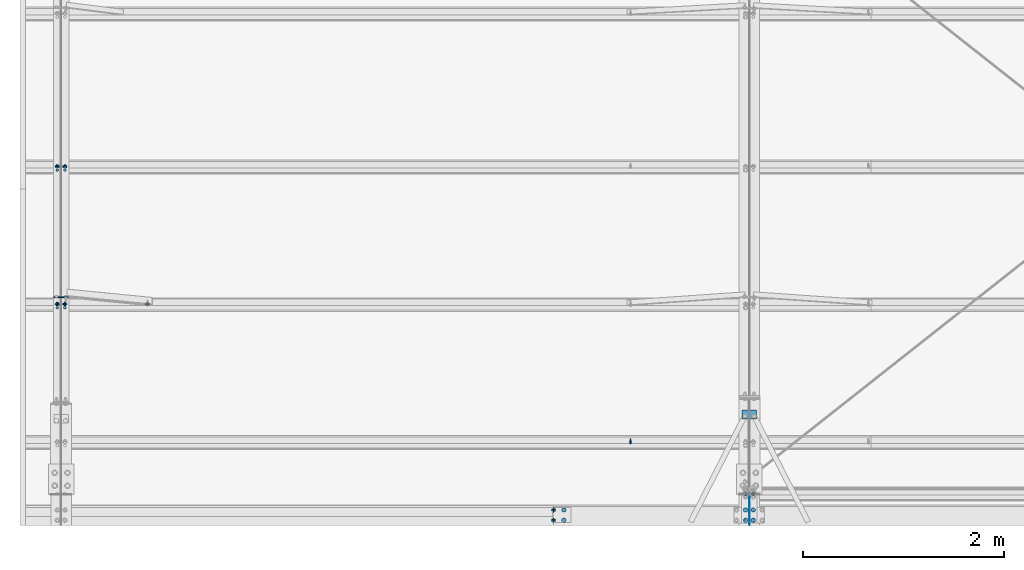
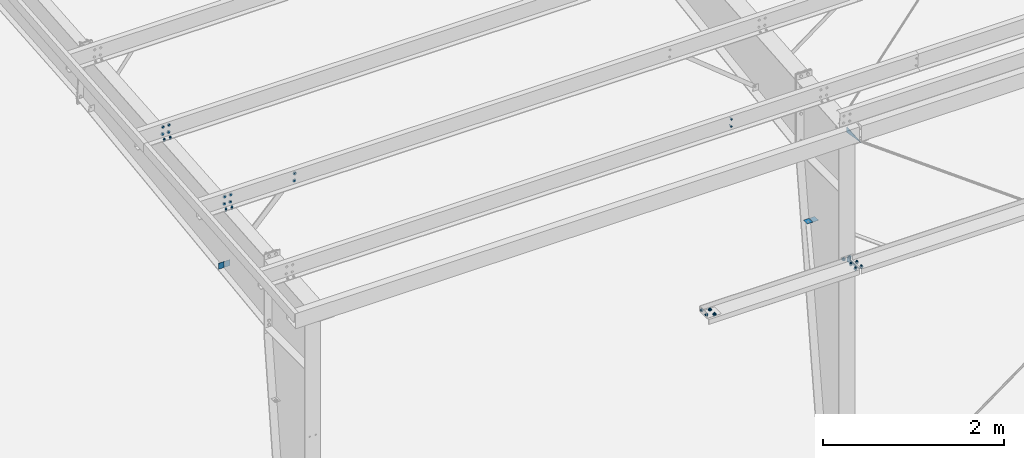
# One storey, part 62 of 185: 13 mechanical fasteners, 6 discrete accessories, 7 elements without a shape of their own.
"""IFC2X3 building model written with IfcOpenShell, lengths in millimetres."""

from ifc_helpers import new_model, si_unit, frame, frame_2d, origin_with_axes, origin_2d_with_axis, place, context, subcontext, project, spatial, polyline, circle_curve, parameter, trimmed, segment, composite_curve, rectangle, circle, outline, extrude, source, transform, mapped, material, type_object, element, aggregate, save


model = new_model("IFC2X3")

# Units and contexts
model_context = context("Model", 3, precision=1e-05, world=origin_with_axes())
body_context = subcontext(model_context, "Body", "Model", "MODEL_VIEW")
ifc_project = project(units=[si_unit("LENGTHUNIT", "METRE", prefix="MILLI"), si_unit("AREAUNIT", "SQUARE_METRE"), si_unit("VOLUMEUNIT", "CUBIC_METRE"), si_unit("MASSUNIT", "GRAM", prefix="KILO"), si_unit("TIMEUNIT", "SECOND"), si_unit("PLANEANGLEUNIT", "RADIAN"), si_unit("SOLIDANGLEUNIT", "STERADIAN"), si_unit("THERMODYNAMICTEMPERATUREUNIT", "DEGREE_CELSIUS"), si_unit("LUMINOUSINTENSITYUNIT", "LUMEN")], contexts=[model_context])

# Site, building, storey
site_placement = place(None, origin_with_axes())
site = spatial("IfcSite", under=ifc_project, at=site_placement, Name="Undefined", CompositionType="ELEMENT")
building_placement = place(site_placement, origin_with_axes())
building = spatial("IfcBuilding", under=site, at=building_placement, Name="Undefined", CompositionType="ELEMENT")
storey_placement = place(building_placement, origin_with_axes())
storey = spatial("IfcBuildingStorey", under=building, at=storey_placement, Name="Undefined", CompositionType="ELEMENT", Elevation=0.0)

# Assembly, mechanical fastener
assembly_1_placement = place(storey_placement, origin_with_axes())
assembly_1 = element("IfcElementAssembly", 1, at=assembly_1_placement, inside=storey, Name="Steel Assembly", AssemblyPlace="NOTDEFINED", PredefinedType="RIGID_FRAME")
ifc_material_1 = material(Name="Undefined")
discrete_accessory_type_1 = type_object("IfcDiscreteAccessoryType", Name="Bolt assembly")
shared_shape_1 = source(origin_with_axes(), body_context, "Body", "SweptSolid", [
    extrude(circle(Radius=7.14374971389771, at=origin_2d_with_axis()), frame((0.0, -1.59000001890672, 0.0), z_axis=(0.0, 1.0, 0.0), x_axis=(1.0, 0.0, 0.0)), (0.0, 0.0, 1.0), 3.3),
    extrude(circle(Radius=13.4937496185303, at=origin_2d_with_axis()), frame((0.0, -5.5587500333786, 0.0), z_axis=(0.0, 1.0, 0.0), x_axis=(1.0, 0.0, 0.0)), (0.0, 0.0, 1.0), 4.0),
    extrude(circle(Radius=22.2250003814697, at=origin_2d_with_axis()), frame((0.0, 1.5900000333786, 0.0), z_axis=(0.0, 1.0, 0.0), x_axis=(1.0, 0.0, 0.0)), (0.0, 0.0, 1.0), 7.9),
    extrude(outline(polyline([(12.8316099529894, 0.0), (6.4158049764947, 11.1125001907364), (-6.4158049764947, 11.1125001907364), (-12.8316099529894, 0.0), (-6.4158049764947, -11.1125001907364), (6.4158049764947, -11.1125001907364), (12.8316099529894, 0.0)])), frame((0.0, 9.5275000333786, 0.0), z_axis=(0.0, 1.0, 0.0), x_axis=(1.0, 0.0, 0.0)), (0.0, 0.0, 1.0), 12.3),
])
mechanical_fastener_1_placement = place(assembly_1_placement, frame((1263.65, 2185.72394128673, 6227.16757842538), z_axis=(1.0, 0.0, 0.0), x_axis=(0.0, 0.0830454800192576, -0.996545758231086)))
mechanical_fastener_1 = element("IfcMechanicalFastener", 2, at=mechanical_fastener_1_placement, type_object=discrete_accessory_type_1, material=ifc_material_1, Name="Bolt assembly", NominalDiameter=12.6999998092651, NominalLength=38.0999984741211, context=body_context, shape_type="MappedRepresentation", body=[
    mapped(shared_shape_1, transform((0.0, 0.0, 0.0))),
    mapped(shared_shape_1, transform((101.599998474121, 0.0, 0.0))),
])

# Assembly, mechanical fasteners
assembly_2_placement = place(storey_placement, origin_with_axes())
assembly_2 = element("IfcElementAssembly", 3, at=assembly_2_placement, inside=storey, Name="Steel Assembly", AssemblyPlace="NOTDEFINED", PredefinedType="RIGID_FRAME")
mechanical_fastener_2_placement = place(assembly_2_placement, frame((368.300000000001, 3552.58610327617, 6341.0727588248), z_axis=(1.0, 0.0, 0.0), x_axis=(0.0, 0.0830454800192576, -0.996545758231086)))
mechanical_fastener_2 = element("IfcMechanicalFastener", 4, at=mechanical_fastener_2_placement, type_object=discrete_accessory_type_1, material=ifc_material_1, Name="Bolt assembly", NominalDiameter=12.6999998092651, NominalLength=38.0999984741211, context=body_context, shape_type="MappedRepresentation", body=[
    mapped(shared_shape_1, transform((0.0, 0.0, 0.0))),
    mapped(shared_shape_1, transform((101.599998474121, 0.0, 0.0))),
])
mechanical_fastener_3_placement = place(assembly_2_placement, frame((444.500000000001, 3552.58610327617, 6341.0727588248), z_axis=(1.0, 0.0, 0.0), x_axis=(0.0, 0.0830454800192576, -0.996545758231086)))
mechanical_fastener_3 = element("IfcMechanicalFastener", 5, at=mechanical_fastener_3_placement, type_object=discrete_accessory_type_1, material=ifc_material_1, Name="Bolt assembly", NominalDiameter=12.6999998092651, NominalLength=38.0999984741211, context=body_context, shape_type="MappedRepresentation", body=[
    mapped(shared_shape_1, transform((0.0, 0.0, 0.0))),
    mapped(shared_shape_1, transform((101.599998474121, 0.0, 0.0))),
])

# Mechanical fastener
mechanical_fastener_4_placement = place(assembly_1_placement, frame((368.300000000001, 2185.72394128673, 6227.16757842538), z_axis=(1.0, 0.0, 0.0), x_axis=(0.0, 0.0830454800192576, -0.996545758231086)))
mechanical_fastener_4 = element("IfcMechanicalFastener", 6, at=mechanical_fastener_4_placement, type_object=discrete_accessory_type_1, material=ifc_material_1, Name="Bolt assembly", NominalDiameter=12.6999998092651, NominalLength=38.0999984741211, context=body_context, shape_type="MappedRepresentation", body=[
    mapped(shared_shape_1, transform((0.0, 0.0, 0.0))),
    mapped(shared_shape_1, transform((101.599998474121, 0.0, 0.0))),
])

mechanical_fastener_5_placement = place(assembly_1_placement, frame((444.500000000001, 2185.72394128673, 6227.16757842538), z_axis=(1.0, 0.0, 0.0), x_axis=(0.0, 0.0830454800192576, -0.996545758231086)))
mechanical_fastener_5 = element("IfcMechanicalFastener", 7, at=mechanical_fastener_5_placement, type_object=discrete_accessory_type_1, material=ifc_material_1, Name="Bolt assembly", NominalDiameter=12.6999998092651, NominalLength=38.0999984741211, context=body_context, shape_type="MappedRepresentation", body=[
    mapped(shared_shape_1, transform((0.0, 0.0, 0.0))),
    mapped(shared_shape_1, transform((101.599998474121, 0.0, 0.0))),
])

# Assembly, mechanical fasteners
assembly_3_placement = place(storey_placement, origin_with_axes())
assembly_3 = element("IfcElementAssembly", 8, at=assembly_3_placement, inside=storey, Name="Steel Assembly", AssemblyPlace="NOTDEFINED", PredefinedType="RIGID_FRAME")
shared_shape_2 = source(origin_with_axes(), body_context, "Body", "SweptSolid", [
    extrude(circle(Radius=7.14374971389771, at=origin_2d_with_axis()), frame((0.0, 0.0, 0.0), z_axis=(0.0, 1.0, 0.0), x_axis=(1.0, 0.0, 0.0)), (0.0, 0.0, 1.0), 3.3),
    extrude(outline(polyline([(10.9985221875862, 0.0), (5.4992610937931, 9.52499961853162), (-5.4992610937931, 9.52499961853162), (-10.9985221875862, 0.0), (-5.4992610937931, -9.52499961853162), (5.4992610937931, -9.52499961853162), (10.9985221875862, 0.0)])), frame((0.0, -7.93749389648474, 0.0), z_axis=(0.0, 1.0, 0.0), x_axis=(1.0, 0.0, 0.0)), (0.0, 0.0, 1.0), 7.9),
    extrude(circle(Radius=6.34999990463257, at=origin_2d_with_axis()), frame((0.0, 0.0, 0.0), z_axis=(0.0, 1.0, 0.0), x_axis=(1.0, 0.0, 0.0)), (0.0, 0.0, 1.0), 25.4),
    extrude(circle(Radius=22.2250003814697, at=origin_2d_with_axis()), frame((0.0, 3.17500610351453, 0.0), z_axis=(0.0, 1.0, 0.0), x_axis=(1.0, 0.0, 0.0)), (0.0, 0.0, 1.0), 7.9),
    extrude(outline(polyline([(12.8316099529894, 0.0), (6.4158049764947, 11.1125001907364), (-6.4158049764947, 11.1125001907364), (-12.8316099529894, 0.0), (-6.4158049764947, -11.1125001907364), (6.4158049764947, -11.1125001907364), (12.8316099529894, 0.0)])), frame((0.0, 11.1125061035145, 0.0), z_axis=(0.0, 1.0, 0.0), x_axis=(1.0, 0.0, 0.0)), (0.0, 0.0, 1.0), 12.3),
])
mechanical_fastener_6_placement = place(assembly_3_placement, frame((5286.38000030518, 101.6, 4203.69999835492), z_axis=(0.0, 1.0, 0.0), x_axis=(0.0, 0.0, 1.0)))
mechanical_fastener_6 = element("IfcMechanicalFastener", 9, at=mechanical_fastener_6_placement, type_object=discrete_accessory_type_1, material=ifc_material_1, Name="Bolt assembly", NominalDiameter=12.6999998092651, NominalLength=25.3999996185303, context=body_context, shape_type="MappedRepresentation", body=[
    mapped(shared_shape_2, transform((0.0, 0.0, -50.7999992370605))),
    mapped(shared_shape_2, transform((0.0, 0.0, 50.7999992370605))),
])
shared_shape_3 = source(origin_with_axes(), body_context, "Body", "SweptSolid", [
    extrude(circle(Radius=7.14374971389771, at=origin_2d_with_axis()), frame((0.0, -3.08000006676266, 0.0), z_axis=(0.0, 1.0, 0.0), x_axis=(1.0, 0.0, 0.0)), (0.0, 0.0, 1.0), 3.2),
    extrude(circle(Radius=7.14374971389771, at=origin_2d_with_axis()), frame((0.0, -0.1, 0.0), z_axis=(0.0, 1.0, 0.0), x_axis=(1.0, 0.0, 0.0)), (0.0, 0.0, 1.0), 3.3),
    extrude(outline(polyline([(10.9985221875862, 0.0), (5.4992610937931, 9.52499961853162), (-5.4992610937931, 9.52499961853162), (-10.9985221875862, 0.0), (-5.4992610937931, -9.52499961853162), (5.4992610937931, -9.52499961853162), (10.9985221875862, 0.0)])), frame((0.0, -16.6737496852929, 0.0), z_axis=(0.0, 1.0, 0.0), x_axis=(1.0, 0.0, 0.0)), (0.0, 0.0, 1.0), 9.5),
    extrude(circle(Radius=6.34999990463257, at=origin_2d_with_axis()), frame((0.0, -7.14875006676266, 0.0), z_axis=(0.0, 1.0, 0.0), x_axis=(1.0, 0.0, 0.0)), (0.0, 0.0, 1.0), 38.1),
    extrude(circle(Radius=13.4937496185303, at=origin_2d_with_axis()), frame((0.0, -7.14875006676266, 0.0), z_axis=(0.0, 1.0, 0.0), x_axis=(1.0, 0.0, 0.0)), (0.0, 0.0, 1.0), 4.0),
    extrude(circle(Radius=22.2250003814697, at=origin_2d_with_axis()), frame((0.0, 3.17500610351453, 0.0), z_axis=(0.0, 1.0, 0.0), x_axis=(1.0, 0.0, 0.0)), (0.0, 0.0, 1.0), 7.9),
    extrude(outline(polyline([(12.8316099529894, 0.0), (6.4158049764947, 11.1125001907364), (-6.4158049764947, 11.1125001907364), (-12.8316099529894, 0.0), (-6.4158049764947, -11.1125001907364), (6.4158049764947, -11.1125001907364), (12.8316099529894, 0.0)])), frame((0.0, 11.1125061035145, 0.0), z_axis=(0.0, 1.0, 0.0), x_axis=(1.0, 0.0, 0.0)), (0.0, 0.0, 1.0), 12.3),
])
mechanical_fastener_7_placement = place(assembly_3_placement, frame((5397.5, 101.6, 4167.19000003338), z_axis=(0.0, -1.0, 0.0), x_axis=(1.0, 0.0, 0.0)))
mechanical_fastener_7 = element("IfcMechanicalFastener", 10, at=mechanical_fastener_7_placement, type_object=discrete_accessory_type_1, material=ifc_material_1, Name="Bolt assembly", NominalDiameter=12.6999998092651, NominalLength=38.0999984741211, context=body_context, shape_type="MappedRepresentation", body=[
    mapped(shared_shape_3, transform((0.0, 0.0, -50.7999992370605))),
    mapped(shared_shape_3, transform((0.0, 0.0, 50.7999992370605))),
])
aggregate(assembly_3, [mechanical_fastener_6, mechanical_fastener_7])

# Assembly, discrete accessories
assembly_4_placement = place(storey_placement, origin_with_axes())
assembly_4 = element("IfcElementAssembly", 11, at=assembly_4_placement, inside=storey, Name="Steel Assembly", AssemblyPlace="NOTDEFINED", PredefinedType="RIGID_FRAME")
ifc_material_2 = material(Name="STEEL/55")
discrete_accessory_type_2 = type_object("IfcDiscreteAccessoryType", Name="FLANGE BRACE FLIP")
discrete_accessory_1_placement = place(assembly_4_placement, frame((7236.61875, 1100.12169218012, 4163.4569751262), z_axis=(0.0, -1.0, 0.0), x_axis=(-1.0, 0.0, 0.0)))
discrete_accessory_1 = element("IfcDiscreteAccessory", 12, at=discrete_accessory_1_placement, type_object=discrete_accessory_type_2, material=ifc_material_2, Name="FLANGE BRACE FLIP", ObjectType="PL1/8\"X2 3/4\"", context=body_context, shape_type="SweptSolid", body=[
    extrude(rectangle(XDim=3.416, YDim=85.725, at=origin_2d_with_axis()), frame((69.8499999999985, 0.0, 0.0), z_axis=(-1.0, 0.0, 0.0), x_axis=(0.0, -1.0, 0.0)), (0.0, 0.0, 1.0), 69.9),
])
discrete_accessory_2_placement = place(assembly_4_placement, frame((7241.38125, 1100.12169218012, 4163.4569751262), z_axis=(0.0, -1.0, 0.0), x_axis=(1.0, 0.0, 0.0)))
discrete_accessory_2 = element("IfcDiscreteAccessory", 13, at=discrete_accessory_2_placement, type_object=discrete_accessory_type_2, material=ifc_material_2, Name="FLANGE BRACE FLIP", ObjectType="PL1/8\"X2 3/4\"", context=body_context, shape_type="SweptSolid", body=[
    extrude(rectangle(XDim=3.416, YDim=85.725, at=origin_2d_with_axis()), frame((69.8499999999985, 0.0, 0.0), z_axis=(-1.0, 0.0, 0.0), x_axis=(0.0, -1.0, 0.0)), (0.0, 0.0, 1.0), 69.9),
])

assembly_5_placement = place(storey_placement, origin_with_axes())
assembly_5 = element("IfcElementAssembly", 14, at=assembly_5_placement, inside=storey, Name="Steel Assembly", AssemblyPlace="NOTDEFINED", PredefinedType="RIGID_FRAME")
discrete_accessory_3_placement = place(assembly_5_placement, frame((408.781250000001, 2265.30818781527, 5251.58957642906), z_axis=(0.0, -0.0830454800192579, 0.996545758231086), x_axis=(1.0, 0.0, 0.0)))
discrete_accessory_3 = element("IfcDiscreteAccessory", 15, at=discrete_accessory_3_placement, type_object=discrete_accessory_type_2, material=ifc_material_2, Name="FLANGE BRACE FLIP", ObjectType="PL1/8\"X2 3/4\"", context=body_context, shape_type="SweptSolid", body=[
    extrude(rectangle(XDim=3.416, YDim=85.725, at=origin_2d_with_axis()), frame((69.8499999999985, 0.0, 0.0), z_axis=(-1.0, 0.0, 0.0), x_axis=(0.0, -1.0, 0.0)), (0.0, 0.0, 1.0), 69.9),
])
discrete_accessory_4_placement = place(assembly_5_placement, frame((404.018750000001, 2265.30818781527, 5251.58957642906), z_axis=(0.0, -0.0830454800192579, 0.996545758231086), x_axis=(-1.0, 0.0, 0.0)))
discrete_accessory_4 = element("IfcDiscreteAccessory", 16, at=discrete_accessory_4_placement, type_object=discrete_accessory_type_2, material=ifc_material_2, Name="FLANGE BRACE FLIP", ObjectType="PL1/8\"X2 3/4\"", context=body_context, shape_type="SweptSolid", body=[
    extrude(rectangle(XDim=3.416, YDim=85.725, at=origin_2d_with_axis()), frame((69.8499999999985, 0.0, 0.0), z_axis=(-1.0, 0.0, 0.0), x_axis=(0.0, -1.0, 0.0)), (0.0, 0.0, 1.0), 69.9),
])
aggregate(assembly_5, [discrete_accessory_3, discrete_accessory_4])

# Assembly, discrete accessory, mechanical fastener
assembly_6_placement = place(storey_placement, origin_with_axes())
assembly_6 = element("IfcElementAssembly", 17, at=assembly_6_placement, inside=storey, Name="Steel Assembly", AssemblyPlace="NOTDEFINED", PredefinedType="RIGID_FRAME")
discrete_accessory_type_3 = type_object("IfcDiscreteAccessoryType", Name="Gusett")
discrete_accessory_5_placement = place(assembly_6_placement, frame((7239.0, 298.449999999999, 4089.4), z_axis=(1.0, 0.0, 0.0), x_axis=(0.0, 0.0, 1.0)))
discrete_accessory_5 = element("IfcDiscreteAccessory", 18, at=discrete_accessory_5_placement, type_object=discrete_accessory_type_3, material=ifc_material_2, Name="Gusett", ObjectType="FL1/4\"X2 3/4\"", context=body_context, shape_type="SweptSolid", body=[
    extrude(outline(polyline([(0.0, 0.0), (69.8499984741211, 0.0), (69.8499984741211, 273.049987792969), (0.0, 0.0)])), frame((0.0, -9.09494701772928e-13, -3.2), z_axis=(0.0, 0.0, 1.0), x_axis=(1.0, 0.0, 0.0)), (0.0, 0.0, 1.0), 6.4),
])
shared_shape_4 = source(origin_with_axes(), body_context, "Body", "SweptSolid", [
    extrude(circle(Radius=7.14374971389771, at=origin_2d_with_axis()), frame((0.0, -0.1, 0.0), z_axis=(0.0, 1.0, 0.0), x_axis=(1.0, 0.0, 0.0)), (0.0, 0.0, 1.0), 8.0),
    extrude(circle(Radius=7.14374971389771, at=origin_2d_with_axis()), frame((0.0, -6.24999999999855, 0.0), z_axis=(0.0, 1.0, 0.0), x_axis=(1.0, 0.0, 0.0)), (0.0, 0.0, 1.0), 6.4),
    extrude(outline(polyline([(10.9985221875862, 0.0), (5.4992610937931, 9.52499961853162), (-5.4992610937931, 9.52499961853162), (-10.9985221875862, 0.0), (-5.4992610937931, -9.52499961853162), (5.4992610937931, -9.52499961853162), (10.9985221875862, 0.0)])), frame((0.0, -15.8750000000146, 0.0), z_axis=(0.0, 1.0, 0.0), x_axis=(1.0, 0.0, 0.0)), (0.0, 0.0, 1.0), 9.5),
    extrude(circle(Radius=6.34999990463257, at=origin_2d_with_axis()), frame((0.0, -6.34999953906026, 0.0), z_axis=(0.0, 1.0, 0.0), x_axis=(1.0, 0.0, 0.0)), (0.0, 0.0, 1.0), 38.1),
    extrude(circle(Radius=22.2250003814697, at=origin_2d_with_axis()), frame((0.0, 7.87399999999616, 0.0), z_axis=(0.0, 1.0, 0.0), x_axis=(1.0, 0.0, 0.0)), (0.0, 0.0, 1.0), 7.9),
    extrude(outline(polyline([(12.8316099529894, 0.0), (6.4158049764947, 11.1125001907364), (-6.4158049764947, 11.1125001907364), (-12.8316099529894, 0.0), (-6.4158049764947, -11.1125001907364), (6.4158049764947, -11.1125001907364), (12.8316099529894, 0.0)])), frame((0.0, 15.8114999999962, 0.0), z_axis=(0.0, 1.0, 0.0), x_axis=(1.0, 0.0, 0.0)), (0.0, 0.0, 1.0), 12.3),
])
mechanical_fastener_8_placement = place(assembly_6_placement, frame((7239.0, 304.8, 4127.5), z_axis=(1.0, 0.0, 0.0), x_axis=(0.0, 0.0, -1.0)))
mechanical_fastener_8 = element("IfcMechanicalFastener", 19, at=mechanical_fastener_8_placement, type_object=discrete_accessory_type_1, material=ifc_material_1, Name="Bolt assembly", NominalDiameter=12.6999998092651, NominalLength=38.0999984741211, context=body_context, shape_type="MappedRepresentation", body=[
    mapped(shared_shape_4, transform((0.0, 0.0, -38.0999984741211))),
    mapped(shared_shape_4, transform((0.0, 0.0, 38.0999984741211))),
])

# Assembly, mechanical fastener
assembly_7_placement = place(storey_placement, origin_with_axes())
assembly_7 = element("IfcElementAssembly", 20, at=assembly_7_placement, inside=storey, Name="Steel Assembly", AssemblyPlace="NOTDEFINED", PredefinedType="RIGID_FRAME")
shared_shape_5 = source(origin_with_axes(), body_context, "Body", "SweptSolid", [
    extrude(circle(Radius=7.14374971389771, at=origin_2d_with_axis()), frame((0.0, -1.4900000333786, 0.0), z_axis=(0.0, 1.0, 0.0), x_axis=(1.0, 0.0, 0.0)), (0.0, 0.0, 1.0), 3.2),
    extrude(circle(Radius=7.14374971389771, at=origin_2d_with_axis()), frame((0.0, -1.4900000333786, 0.0), z_axis=(0.0, 1.0, 0.0), x_axis=(1.0, 0.0, 0.0)), (0.0, 0.0, 1.0), 3.2),
    extrude(outline(polyline([(10.9985221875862, 0.0), (5.4992610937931, 9.52499961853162), (-5.4992610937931, 9.52499961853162), (-10.9985221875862, 0.0), (-5.4992610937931, -9.52499961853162), (5.4992610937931, -9.52499961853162), (10.9985221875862, 0.0)])), frame((0.0, -11.1149996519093, 0.0), z_axis=(0.0, 1.0, 0.0), x_axis=(1.0, 0.0, 0.0)), (0.0, 0.0, 1.0), 9.5),
    extrude(circle(Radius=6.34999990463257, at=origin_2d_with_axis()), frame((0.0, -1.59000001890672, 0.0), z_axis=(0.0, 1.0, 0.0), x_axis=(1.0, 0.0, 0.0)), (0.0, 0.0, 1.0), 38.1),
    extrude(outline(polyline([(12.8316099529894, 0.0), (6.4158049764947, 11.1125001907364), (-6.4158049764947, 11.1125001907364), (-12.8316099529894, 0.0), (-6.4158049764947, -11.1125001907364), (6.4158049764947, -11.1125001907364), (12.8316099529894, 0.0)])), frame((0.0, 1.5900000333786, 0.0), z_axis=(0.0, 1.0, 0.0), x_axis=(1.0, 0.0, 0.0)), (0.0, 0.0, 1.0), 12.3),
])
mechanical_fastener_9_placement = place(assembly_7_placement, frame((6057.9, 818.861779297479, 6113.26239802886), z_axis=(1.0, 0.0, 0.0), x_axis=(0.0, 0.0830454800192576, -0.996545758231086)))
mechanical_fastener_9 = element("IfcMechanicalFastener", 21, at=mechanical_fastener_9_placement, type_object=discrete_accessory_type_1, material=ifc_material_1, Name="Bolt assembly", NominalDiameter=12.6999998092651, NominalLength=38.0999984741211, context=body_context, shape_type="MappedRepresentation", body=[
    mapped(shared_shape_5, transform((0.0, 0.0, 0.0))),
    mapped(shared_shape_5, transform((101.599998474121, 0.0, 0.0))),
])
aggregate(assembly_7, [mechanical_fastener_9])

# Mechanical fastener
shared_shape_6 = source(origin_with_axes(), body_context, "Body", "SweptSolid", [
    extrude(outline(composite_curve([segment(polyline([(-5.953125, 7.14374971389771), (5.953125, 7.14374971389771)]), True, "CONTINUOUS"), segment(trimmed(circle_curve(frame_2d((5.953125, 0.0), x_axis=(0.0, 1.0)), 7.1), [parameter(0.0)], [parameter(3.14159265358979)], False, "PARAMETER"), True, "CONTINUOUS"), segment(polyline([(5.953125, -7.14374971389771), (-5.953125, -7.14374971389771)]), True, "CONTINUOUS"), segment(trimmed(circle_curve(frame_2d((-5.953125, 0.0), x_axis=(0.0, -1.0)), 7.1), [parameter(0.0)], [parameter(3.14159265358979)], False, "PARAMETER"), True, "DISCONTINUOUS")], self_intersect=False)), frame((0.0, -1.4900000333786, 0.0), z_axis=(0.0, 1.0, 0.0), x_axis=(1.0, 0.0, 0.0)), (0.0, 0.0, 1.0), 3.2),
    extrude(outline(composite_curve([segment(polyline([(7.14374971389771, 5.953125), (7.14374971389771, -5.953125)]), True, "CONTINUOUS"), segment(trimmed(circle_curve(frame_2d((0.0, -5.953125), x_axis=(1.0, 0.0)), 7.1), [parameter(0.0)], [parameter(3.14159265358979)], False, "PARAMETER"), True, "CONTINUOUS"), segment(polyline([(-7.14374971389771, -5.953125), (-7.14374971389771, 5.953125)]), True, "CONTINUOUS"), segment(trimmed(circle_curve(frame_2d((0.0, 5.953125), x_axis=(-1.0, 0.0)), 7.1), [parameter(0.0)], [parameter(3.14159265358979)], False, "PARAMETER"), True, "DISCONTINUOUS")], self_intersect=False)), frame((0.0, -0.1, 0.0), z_axis=(0.0, 1.0, 0.0), x_axis=(1.0, 0.0, 0.0)), (0.0, 0.0, 1.0), 6.5),
    extrude(outline(polyline([(10.9985221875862, 0.0), (5.4992610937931, 9.52499961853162), (-5.4992610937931, 9.52499961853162), (-10.9985221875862, 0.0), (-5.4992610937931, -9.52499961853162), (5.4992610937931, -9.52499961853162), (10.9985221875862, 0.0)])), frame((0.0, -15.0837496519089, 0.0), z_axis=(0.0, 1.0, 0.0), x_axis=(1.0, 0.0, 0.0)), (0.0, 0.0, 1.0), 9.5),
    extrude(circle(Radius=6.34999990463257, at=origin_2d_with_axis()), frame((0.0, -5.5587500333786, 0.0), z_axis=(0.0, 1.0, 0.0), x_axis=(1.0, 0.0, 0.0)), (0.0, 0.0, 1.0), 38.1),
    extrude(circle(Radius=13.4937496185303, at=origin_2d_with_axis()), frame((0.0, -5.5587500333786, 0.0), z_axis=(0.0, 1.0, 0.0), x_axis=(1.0, 0.0, 0.0)), (0.0, 0.0, 1.0), 4.0),
    extrude(circle(Radius=22.2250003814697, at=origin_2d_with_axis()), frame((0.0, 6.35000000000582, 0.0), z_axis=(0.0, 1.0, 0.0), x_axis=(1.0, 0.0, 0.0)), (0.0, 0.0, 1.0), 7.9),
    extrude(outline(polyline([(12.8316099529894, 0.0), (6.4158049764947, 11.1125001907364), (-6.4158049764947, 11.1125001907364), (-12.8316099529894, 0.0), (-6.4158049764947, -11.1125001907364), (6.4158049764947, -11.1125001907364), (12.8316099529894, 0.0)])), frame((0.0, 14.2875000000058, 0.0), z_axis=(0.0, 1.0, 0.0), x_axis=(1.0, 0.0, 0.0)), (0.0, 0.0, 1.0), 12.3),
])
mechanical_fastener_10_placement = place(assembly_6_placement, frame((7277.1, 50.8, 4165.6), z_axis=(-1.0, 0.0, 0.0), x_axis=(0.0, 1.0, 0.0)))
mechanical_fastener_10 = element("IfcMechanicalFastener", 22, at=mechanical_fastener_10_placement, type_object=discrete_accessory_type_1, material=ifc_material_1, Name="Bolt assembly", NominalDiameter=12.6999998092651, NominalLength=38.0999984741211, context=body_context, shape_type="MappedRepresentation", body=[
    mapped(shared_shape_6, transform((0.0, 0.0, 0.0))),
    mapped(shared_shape_6, transform((101.599998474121, 0.0, 0.0))),
])

shared_shape_7 = source(origin_with_axes(), body_context, "Body", "SweptSolid", [
    extrude(outline(composite_curve([segment(polyline([(-5.953125, 7.14374971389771), (5.953125, 7.14374971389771)]), True, "CONTINUOUS"), segment(trimmed(circle_curve(frame_2d((5.953125, 0.0), x_axis=(0.0, 1.0)), 7.1), [parameter(0.0)], [parameter(3.14159265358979)], False, "PARAMETER"), True, "CONTINUOUS"), segment(polyline([(5.953125, -7.14374971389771), (-5.953125, -7.14374971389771)]), True, "CONTINUOUS"), segment(trimmed(circle_curve(frame_2d((-5.953125, 0.0), x_axis=(0.0, -1.0)), 7.1), [parameter(0.0)], [parameter(3.14159265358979)], False, "PARAMETER"), True, "DISCONTINUOUS")], self_intersect=False)), frame((0.0, -1.4900000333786, 0.0), z_axis=(0.0, 1.0, 0.0), x_axis=(1.0, 0.0, 0.0)), (0.0, 0.0, 1.0), 3.2),
    extrude(outline(composite_curve([segment(polyline([(7.14374971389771, 5.953125), (7.14374971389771, -5.953125)]), True, "CONTINUOUS"), segment(trimmed(circle_curve(frame_2d((0.0, -5.953125), x_axis=(1.0, 0.0)), 7.1), [parameter(0.0)], [parameter(3.14159265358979)], False, "PARAMETER"), True, "CONTINUOUS"), segment(polyline([(-7.14374971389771, -5.953125), (-7.14374971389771, 5.953125)]), True, "CONTINUOUS"), segment(trimmed(circle_curve(frame_2d((0.0, 5.953125), x_axis=(-1.0, 0.0)), 7.1), [parameter(0.0)], [parameter(3.14159265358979)], False, "PARAMETER"), True, "DISCONTINUOUS")], self_intersect=False)), frame((0.0, -0.1, 0.0), z_axis=(0.0, 1.0, 0.0), x_axis=(1.0, 0.0, 0.0)), (0.0, 0.0, 1.0), 6.5),
    extrude(outline(polyline([(10.9985221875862, 0.0), (5.4992610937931, 9.52499961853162), (-5.4992610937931, 9.52499961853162), (-10.9985221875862, 0.0), (-5.4992610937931, -9.52499961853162), (5.4992610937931, -9.52499961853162), (10.9985221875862, 0.0)])), frame((0.0, -15.0837496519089, 0.0), z_axis=(0.0, 1.0, 0.0), x_axis=(1.0, 0.0, 0.0)), (0.0, 0.0, 1.0), 9.5),
    extrude(circle(Radius=6.34999990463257, at=origin_2d_with_axis()), frame((0.0, -5.5587500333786, 0.0), z_axis=(0.0, 1.0, 0.0), x_axis=(1.0, 0.0, 0.0)), (0.0, 0.0, 1.0), 38.1),
    extrude(circle(Radius=13.4937496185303, at=origin_2d_with_axis()), frame((0.0, -5.5587500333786, 0.0), z_axis=(0.0, 1.0, 0.0), x_axis=(1.0, 0.0, 0.0)), (0.0, 0.0, 1.0), 4.0),
    extrude(circle(Radius=22.2250003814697, at=origin_2d_with_axis()), frame((0.0, 6.35000000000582, 0.0), z_axis=(0.0, 1.0, 0.0), x_axis=(1.0, 0.0, 0.0)), (0.0, 0.0, 1.0), 7.9),
    extrude(outline(polyline([(12.8316099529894, 0.0), (6.4158049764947, 11.1125001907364), (-6.4158049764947, 11.1125001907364), (-12.8316099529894, 0.0), (-6.4158049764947, -11.1125001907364), (6.4158049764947, -11.1125001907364), (12.8316099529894, 0.0)])), frame((0.0, 14.2875000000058, 0.0), z_axis=(0.0, 1.0, 0.0), x_axis=(1.0, 0.0, 0.0)), (0.0, 0.0, 1.0), 12.3),
])
mechanical_fastener_11_placement = place(assembly_6_placement, frame((7200.9, 50.7999992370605, 4165.6), z_axis=(-1.0, 0.0, 0.0), x_axis=(0.0, 1.0, 0.0)))
mechanical_fastener_11 = element("IfcMechanicalFastener", 23, at=mechanical_fastener_11_placement, type_object=discrete_accessory_type_1, material=ifc_material_1, Name="Bolt assembly", NominalDiameter=12.6999998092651, NominalLength=38.0999984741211, context=body_context, shape_type="MappedRepresentation", body=[
    mapped(shared_shape_7, transform((0.0, 0.0, 0.0))),
    mapped(shared_shape_7, transform((101.599998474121, 0.0, 0.0))),
])

aggregate(assembly_6, [discrete_accessory_5, mechanical_fastener_8, mechanical_fastener_10, mechanical_fastener_11])

# Discrete accessory
discrete_accessory_type_4 = type_object("IfcDiscreteAccessoryType", Name="Gusset")
discrete_accessory_6_placement = place(assembly_4_placement, frame((7239.0, 304.8, 5909.51790803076), z_axis=(1.0, 0.0, 0.0), x_axis=(0.0, -0.996548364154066, -0.0830142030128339)))
discrete_accessory_6 = element("IfcDiscreteAccessory", 24, at=discrete_accessory_6_placement, type_object=discrete_accessory_type_4, material=ifc_material_2, Name="Gusset", ObjectType="1/4\"X2 15/16\"", context=body_context, shape_type="SweptSolid", body=[
    extrude(outline(polyline([(0.0, 0.0), (305.244781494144, -7.45785655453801e-11), (6.32568216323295, 75.9369888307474), (0.0, 0.0)])), frame((0.0, -9.09494701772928e-13, -3.2), z_axis=(0.0, 0.0, 1.0), x_axis=(1.0, 0.0, 0.0)), (0.0, 0.0, 1.0), 6.4),
])

aggregate(assembly_4, [discrete_accessory_1, discrete_accessory_2, discrete_accessory_6])

# Mechanical fastener
shared_shape_8 = source(origin_with_axes(), body_context, "Body", "SweptSolid", [
    extrude(circle(Radius=7.14374971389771, at=origin_2d_with_axis()), frame((0.0, -1.68991444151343, 0.0), z_axis=(0.0, 1.0, 0.0), x_axis=(1.0, 0.0, 0.0)), (0.0, 0.0, 1.0), 8.0),
    extrude(circle(Radius=7.14374971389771, at=origin_2d_with_axis()), frame((0.0, -3.08000006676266, 0.0), z_axis=(0.0, 1.0, 0.0), x_axis=(1.0, 0.0, 0.0)), (0.0, 0.0, 1.0), 3.2),
    extrude(outline(polyline([(10.9985221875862, 0.0), (5.4992610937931, 9.52499961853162), (-5.4992610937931, 9.52499961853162), (-10.9985221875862, 0.0), (-5.4992610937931, -9.52499961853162), (5.4992610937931, -9.52499961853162), (10.9985221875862, 0.0)])), frame((0.0, -16.6737496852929, 0.0), z_axis=(0.0, 1.0, 0.0), x_axis=(1.0, 0.0, 0.0)), (0.0, 0.0, 1.0), 9.5),
    extrude(circle(Radius=6.34999990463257, at=origin_2d_with_axis()), frame((0.0, -7.14875006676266, 0.0), z_axis=(0.0, 1.0, 0.0), x_axis=(1.0, 0.0, 0.0)), (0.0, 0.0, 1.0), 38.1),
    extrude(circle(Radius=13.4937496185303, at=origin_2d_with_axis()), frame((0.0, -7.14875006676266, 0.0), z_axis=(0.0, 1.0, 0.0), x_axis=(1.0, 0.0, 0.0)), (0.0, 0.0, 1.0), 4.0),
    extrude(outline(polyline([(12.8316099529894, 0.0), (6.4158049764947, 11.1125001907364), (-6.4158049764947, 11.1125001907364), (-12.8316099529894, 0.0), (-6.4158049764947, -11.1125001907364), (6.4158049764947, -11.1125001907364), (12.8316099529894, 0.0)])), frame((0.0, 6.28408555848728, 0.0), z_axis=(0.0, 1.0, 0.0), x_axis=(1.0, 0.0, 0.0)), (0.0, 0.0, 1.0), 12.3),
])
mechanical_fastener_12_placement = place(assembly_2_placement, frame((406.400000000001, 3527.2738410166, 6186.03515248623), z_axis=(1.0, 0.0, 0.0), x_axis=(0.0, -0.996545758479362, -0.0830454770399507)))
mechanical_fastener_12 = element("IfcMechanicalFastener", 25, at=mechanical_fastener_12_placement, type_object=discrete_accessory_type_1, material=ifc_material_1, Name="Bolt assembly", NominalDiameter=12.6999998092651, NominalLength=38.0999984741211, context=body_context, shape_type="MappedRepresentation", body=[
    mapped(shared_shape_8, transform((0.0, 0.0, -38.0999984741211))),
    mapped(shared_shape_8, transform((0.0, 0.0, 38.0999984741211))),
])

aggregate(assembly_2, [mechanical_fastener_12, mechanical_fastener_2, mechanical_fastener_3])

mechanical_fastener_13_placement = place(assembly_1_placement, frame((406.400000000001, 2160.41167902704, 6072.12997208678), z_axis=(1.0, 0.0, 0.0), x_axis=(0.0, -0.996545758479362, -0.0830454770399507)))
mechanical_fastener_13 = element("IfcMechanicalFastener", 26, at=mechanical_fastener_13_placement, type_object=discrete_accessory_type_1, material=ifc_material_1, Name="Bolt assembly", NominalDiameter=12.6999998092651, NominalLength=38.0999984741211, context=body_context, shape_type="MappedRepresentation", body=[
    mapped(shared_shape_8, transform((0.0, 0.0, -38.0999984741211))),
    mapped(shared_shape_8, transform((0.0, 0.0, 38.0999984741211))),
])

aggregate(assembly_1, [mechanical_fastener_1, mechanical_fastener_13, mechanical_fastener_4, mechanical_fastener_5])

save(model, "model.ifc")
